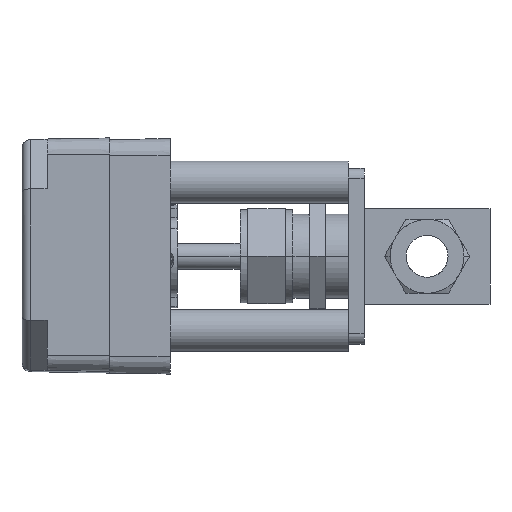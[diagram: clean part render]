
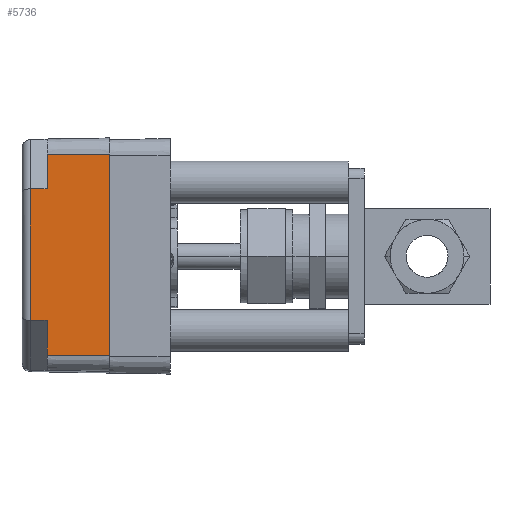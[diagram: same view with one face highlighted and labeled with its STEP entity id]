
A CAD part, left-side view. The second image highlights one B-rep face of the part: STEP entity #5736.
In plain terms, the highlighted planar face has unit normal (-1, 0.018, 0.005).
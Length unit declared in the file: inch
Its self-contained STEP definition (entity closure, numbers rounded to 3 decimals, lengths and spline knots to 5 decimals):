
#346 = VERTEX_POINT ( 'NONE', #9262 ) ;
#504 = VERTEX_POINT ( 'NONE', #8715 ) ;
#923 = LINE ( 'NONE', #5993, #10287 ) ;
#956 = CARTESIAN_POINT ( 'NONE',  ( -2.05491, 1.47724, 0.85058 ) ) ;
#965 = PLANE ( 'NONE',  #11929 ) ;
#1028 = FACE_OUTER_BOUND ( 'NONE', #14801, .T. ) ;
#1362 = DIRECTION ( 'NONE',  ( -1., 0.017, 0.005 ) ) ;
#1381 = CARTESIAN_POINT ( 'NONE',  ( -2.06054, 1.77724, -1.13311 ) ) ;
#1386 = DIRECTION ( 'NONE',  ( 0.005, 0., 1. ) ) ;
#1499 = LINE ( 'NONE', #1557, #14667 ) ;
#1557 = CARTESIAN_POINT ( 'NONE',  ( -2.06226, 1.67898, -1.1331 ) ) ;
#1891 = VERTEX_POINT ( 'NONE', #13362 ) ;
#2105 = CARTESIAN_POINT ( 'NONE',  ( -2.06351, 1.47724, -0.71933 ) ) ;
#2271 = VERTEX_POINT ( 'NONE', #9466 ) ;
#2288 = VECTOR ( 'NONE', #8603, 39.37008 ) ;
#2529 = VECTOR ( 'NONE', #4730, 39.37008 ) ;
#2603 = VERTEX_POINT ( 'NONE', #956 ) ;
#3111 = VECTOR ( 'NONE', #8361, 39.37008 ) ;
#3446 = VERTEX_POINT ( 'NONE', #14304 ) ;
#3457 = CARTESIAN_POINT ( 'NONE',  ( -2.04944, 1.79156, 0.84827 ) ) ;
#3709 = CARTESIAN_POINT ( 'NONE',  ( -2.06556, 0.73724, 1.2644 ) ) ;
#4459 = CARTESIAN_POINT ( 'NONE',  ( -2.06578, 1.47724, -1.13308 ) ) ;
#4685 = LINE ( 'NONE', #4711, #2529 ) ;
#4693 = CARTESIAN_POINT ( 'NONE',  ( -2.06578, 1.47724, -1.13308 ) ) ;
#4711 = CARTESIAN_POINT ( 'NONE',  ( -2.05832, 1.77423, -0.71721 ) ) ;
#4730 = DIRECTION ( 'NONE',  ( -0.017, -1., -0.007 ) ) ;
#4896 = VECTOR ( 'NONE', #9327, 39.37008 ) ;
#5721 = EDGE_CURVE ( 'NONE', #13893, #346, #1499, .T. ) ;
#5736 = ADVANCED_FACE ( 'NONE', ( #1028 ), #965, .T. ) ;
#5993 = CARTESIAN_POINT ( 'NONE',  ( -2.0787, 0.73724, -1.13301 ) ) ;
#6501 = EDGE_CURVE ( 'NONE', #346, #9678, #4685, .T. ) ;
#7795 = VECTOR ( 'NONE', #12747, 39.37008 ) ;
#7950 = CARTESIAN_POINT ( 'NONE',  ( -2.0787, 0.73724, -1.13301 ) ) ;
#8361 = DIRECTION ( 'NONE',  ( 0.017, 1., -0.007 ) ) ;
#8603 = DIRECTION ( 'NONE',  ( 0.017, 1., 0. ) ) ;
#8715 = CARTESIAN_POINT ( 'NONE',  ( -2.06556, 0.73724, 1.2644 ) ) ;
#9262 = CARTESIAN_POINT ( 'NONE',  ( -2.05998, 1.67898, -0.71789 ) ) ;
#9327 = DIRECTION ( 'NONE',  ( 0.005, 0., 1. ) ) ;
#9466 = CARTESIAN_POINT ( 'NONE',  ( -2.0787, 0.73724, -1.13301 ) ) ;
#9564 = DIRECTION ( 'NONE',  ( -0.005, 0., -1. ) ) ;
#9678 = VERTEX_POINT ( 'NONE', #2105 ) ;
#10287 = VECTOR ( 'NONE', #10836, 39.37008 ) ;
#10836 = DIRECTION ( 'NONE',  ( 0.017, 1., 0. ) ) ;
#11056 = VECTOR ( 'NONE', #9564, 39.37008 ) ;
#11757 = ORIENTED_EDGE ( 'NONE', *, *, #6501, .T. ) ;
#11758 = ORIENTED_EDGE ( 'NONE', *, *, #5721, .T. ) ;
#11929 = AXIS2_PLACEMENT_3D ( 'NONE', #1381, #1362, #1386 ) ;
#12308 = EDGE_CURVE ( 'NONE', #1891, #9678, #15245, .T. ) ;
#12747 = DIRECTION ( 'NONE',  ( 0.005, 0., 1. ) ) ;
#12878 = EDGE_CURVE ( 'NONE', #3446, #2603, #15469, .T. ) ;
#13217 = CARTESIAN_POINT ( 'NONE',  ( -2.0514, 1.67898, 0.8491 ) ) ;
#13223 = ORIENTED_EDGE ( 'NONE', *, *, #12308, .F. ) ;
#13362 = CARTESIAN_POINT ( 'NONE',  ( -2.06578, 1.47724, -1.13308 ) ) ;
#13507 = EDGE_CURVE ( 'NONE', #2271, #1891, #923, .T. ) ;
#13621 = ORIENTED_EDGE ( 'NONE', *, *, #12878, .T. ) ;
#13824 = EDGE_CURVE ( 'NONE', #2603, #13893, #14315, .T. ) ;
#13853 = ORIENTED_EDGE ( 'NONE', *, *, #15213, .T. ) ;
#13893 = VERTEX_POINT ( 'NONE', #13217 ) ;
#14143 = EDGE_CURVE ( 'NONE', #2271, #504, #15068, .T. ) ;
#14233 = DIRECTION ( 'NONE',  ( -0.005, 0., -1. ) ) ;
#14304 = CARTESIAN_POINT ( 'NONE',  ( -2.05264, 1.47724, 1.26433 ) ) ;
#14315 = LINE ( 'NONE', #3457, #3111 ) ;
#14532 = LINE ( 'NONE', #3709, #2288 ) ;
#14667 = VECTOR ( 'NONE', #14233, 39.37008 ) ;
#14801 = EDGE_LOOP ( 'NONE', ( #15608, #11758, #11757, #13223, #15356, #15340, #13853, #13621 ) ) ;
#15068 = LINE ( 'NONE', #7950, #7795 ) ;
#15213 = EDGE_CURVE ( 'NONE', #504, #3446, #14532, .T. ) ;
#15245 = LINE ( 'NONE', #4459, #4896 ) ;
#15340 = ORIENTED_EDGE ( 'NONE', *, *, #14143, .T. ) ;
#15356 = ORIENTED_EDGE ( 'NONE', *, *, #13507, .F. ) ;
#15469 = LINE ( 'NONE', #4693, #11056 ) ;
#15608 = ORIENTED_EDGE ( 'NONE', *, *, #13824, .T. ) ;
